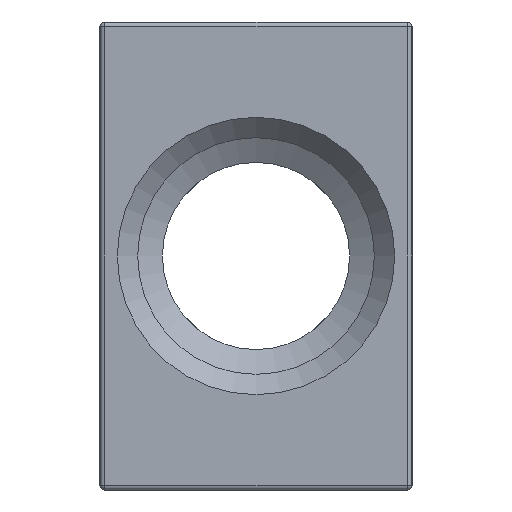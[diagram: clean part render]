
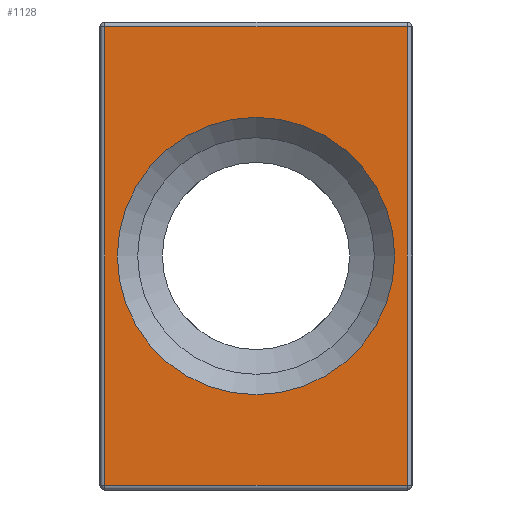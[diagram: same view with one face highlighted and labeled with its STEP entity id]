
A CAD part, left-side view. The second image highlights one B-rep face of the part: STEP entity #1128.
In plain terms, the highlighted planar face has unit normal (-1, 0, 0).
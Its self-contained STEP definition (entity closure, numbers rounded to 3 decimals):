
#58=FACE_BOUND('',#340,.T.);
#76=PLANE('',#1246);
#82=LINE('',#1772,#147);
#87=LINE('',#1794,#152);
#92=LINE('',#1801,#157);
#96=LINE('',#1807,#161);
#147=VECTOR('',#1404,10.);
#152=VECTOR('',#1431,10.);
#157=VECTOR('',#1440,10.);
#161=VECTOR('',#1448,10.);
#265=FACE_OUTER_BOUND('',#339,.T.);
#339=EDGE_LOOP('',(#850,#851,#852,#853));
#340=EDGE_LOOP('',(#854));
#429=CIRCLE('',#1247,8.886);
#489=VERTEX_POINT('',#1733);
#500=VERTEX_POINT('',#1760);
#503=VERTEX_POINT('',#1767);
#507=VERTEX_POINT('',#1787);
#517=VERTEX_POINT('',#1835);
#611=EDGE_CURVE('',#489,#503,#82,.T.);
#622=EDGE_CURVE('',#507,#500,#87,.T.);
#627=EDGE_CURVE('',#503,#507,#92,.T.);
#631=EDGE_CURVE('',#500,#489,#96,.T.);
#645=EDGE_CURVE('',#517,#517,#429,.T.);
#850=ORIENTED_EDGE('',*,*,#622,.F.);
#851=ORIENTED_EDGE('',*,*,#627,.F.);
#852=ORIENTED_EDGE('',*,*,#611,.F.);
#853=ORIENTED_EDGE('',*,*,#631,.F.);
#854=ORIENTED_EDGE('',*,*,#645,.F.);
#1128=ADVANCED_FACE('',(#265,#58),#76,.T.);
#1246=AXIS2_PLACEMENT_3D('',#1834,#1481,#1482);
#1247=AXIS2_PLACEMENT_3D('',#1836,#1483,#1484);
#1404=DIRECTION('',(0.,1.,0.));
#1431=DIRECTION('',(0.,-1.,0.));
#1440=DIRECTION('',(0.,0.,1.));
#1448=DIRECTION('',(0.,0.,-1.));
#1481=DIRECTION('center_axis',(-1.,0.,0.));
#1482=DIRECTION('ref_axis',(0.,0.,1.));
#1483=DIRECTION('center_axis',(-1.,0.,0.));
#1484=DIRECTION('ref_axis',(0.,1.,0.));
#1733=CARTESIAN_POINT('',(-63.,-9.7,-14.7));
#1760=CARTESIAN_POINT('',(-63.,-9.7,14.7));
#1767=CARTESIAN_POINT('',(-63.,9.7,-14.7));
#1772=CARTESIAN_POINT('',(-63.,0.,-14.7));
#1787=CARTESIAN_POINT('',(-63.,9.7,14.7));
#1794=CARTESIAN_POINT('',(-63.,0.,14.7));
#1801=CARTESIAN_POINT('',(-63.,9.7,-7.5));
#1807=CARTESIAN_POINT('',(-63.,-9.7,-7.5));
#1834=CARTESIAN_POINT('Origin',(-63.,0.,-15.));
#1835=CARTESIAN_POINT('',(-63.,-8.886,0.));
#1836=CARTESIAN_POINT('Origin',(-63.,0.,0.));
